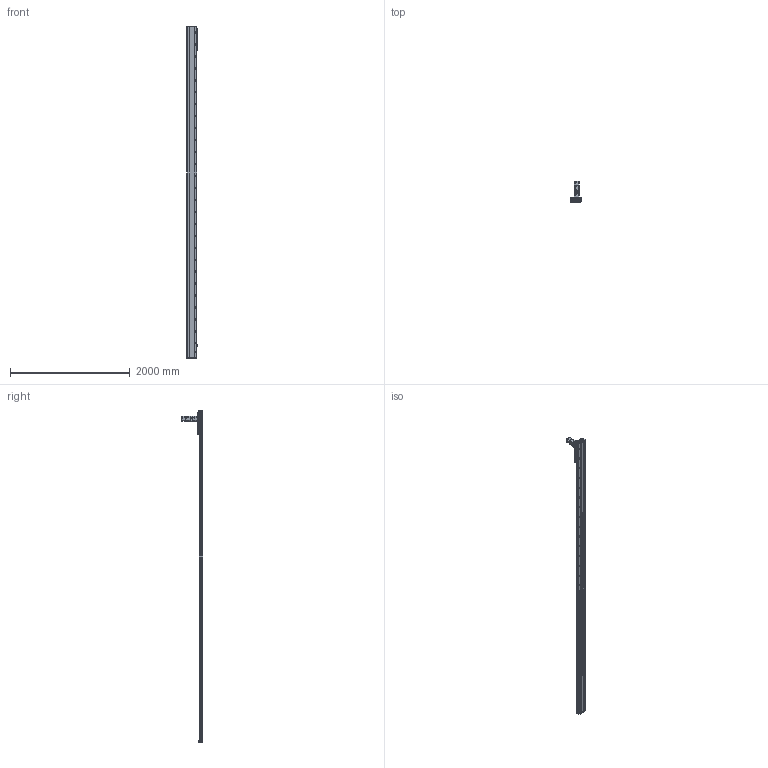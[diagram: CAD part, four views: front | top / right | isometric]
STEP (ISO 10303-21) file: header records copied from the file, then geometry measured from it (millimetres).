
FILE_DESCRIPTION (( 'STEP AP214' ), '1' );
FILE_NAME ('SHS170-S5100.STEP', '2022-12-05T09:06:53', ( '' ), ( '' ), 'SwSTEP 2.0', 'SolidWorks 2020', '' );
FILE_SCHEMA (( 'AUTOMOTIVE_DESIGN' ));
Length unit declared in the file: millimetre
Products named in the file (11): 錨璃189^SHS170-S5100; SHS170____.step; SB-90-3-P2-C20807_203.step; SGMJV-08A3A6E.step; MSB20S_____.step; SHS170______.step; EE-SX672.step; SHS170-S5100.step; SHS170-DZ-5100_____________.step; CHMH-020-20.step; SHS170-S5100
Assembly tree (18 placements, depth 3):
  SHS170-S5100
    SHS170-S5100.step
      SHS170-DZ-5100_____________.step
      MSB20S_____.step  x7
      SHS170____.step
      SHS170______.step
      SB-90-3-P2-C20807_203.step
      CHMH-020-20.step
      SGMJV-08A3A6E.step
      EE-SX672.step  x3
    錨璃189^SHS170-S5100
Bounding box: 193.7 x 355.6 x 5555 mm (x, y, z)
Volume: 27957736.4 mm3; surface area: 7204056.6 mm2
Topology: 107 solids, 107 shells, 5478 faces, 15085 edges, 9849 vertices
Faces by surface type: plane 2792, cylinder 1680, bspline 667, cone 339
Entity records: 181573 total; most frequent: CARTESIAN_POINT 68165, ORIENTED_EDGE 24978, DIRECTION 20659, EDGE_CURVE 12489, VERTEX_POINT 8233, LINE 7605, VECTOR 7605, AXIS2_PLACEMENT_3D 6527
